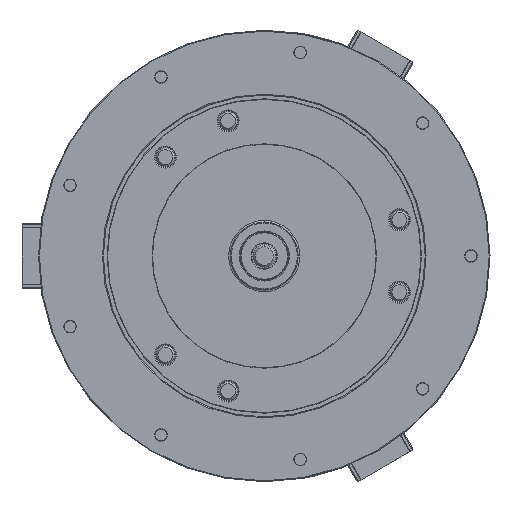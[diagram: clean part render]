
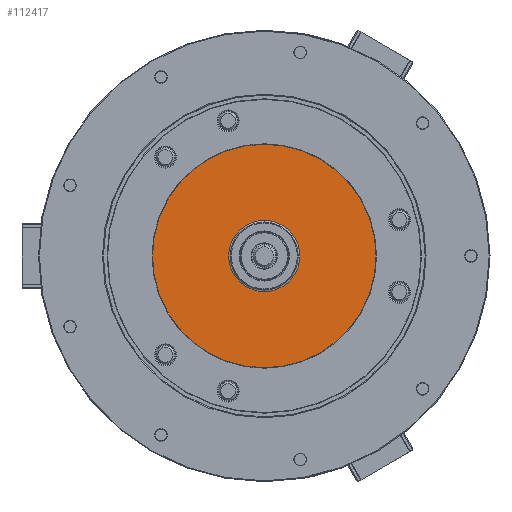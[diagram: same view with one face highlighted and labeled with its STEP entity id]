
A CAD part, left-side view. The second image highlights one B-rep face of the part: STEP entity #112417.
In plain terms, the highlighted planar face has unit normal (-1, 0, 0).
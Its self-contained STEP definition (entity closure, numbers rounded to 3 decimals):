
#926 = AXIS2_PLACEMENT_3D ( 'NONE', #12909, #72663, #108516 ) ;
#2519 = VERTEX_POINT ( 'NONE', #30172 ) ;
#4955 = DIRECTION ( 'NONE',  ( 1., 0., 0. ) ) ;
#5852 = EDGE_LOOP ( 'NONE', ( #37481, #82688 ) ) ;
#12347 = PLANE ( 'NONE',  #88419 ) ;
#12909 = CARTESIAN_POINT ( 'NONE',  ( -111.5, 0., 0. ) ) ;
#15152 = DIRECTION ( 'NONE',  ( 1., 0., 0. ) ) ;
#16077 = VERTEX_POINT ( 'NONE', #33793 ) ;
#17408 = DIRECTION ( 'NONE',  ( 0., 0., -1. ) ) ;
#27660 = DIRECTION ( 'NONE',  ( 0., 0., -1. ) ) ;
#28318 = FACE_OUTER_BOUND ( 'NONE', #5852, .T. ) ;
#28702 = CARTESIAN_POINT ( 'NONE',  ( -111.5, 0., 0. ) ) ;
#29434 = CARTESIAN_POINT ( 'NONE',  ( -111.5, -42., 0. ) ) ;
#30172 = CARTESIAN_POINT ( 'NONE',  ( -111.5, 0., 132. ) ) ;
#33793 = CARTESIAN_POINT ( 'NONE',  ( -111.5, 0., -132. ) ) ;
#37481 = ORIENTED_EDGE ( 'NONE', *, *, #60916, .F. ) ;
#39484 = EDGE_LOOP ( 'NONE', ( #100365, #56123 ) ) ;
#44267 = CIRCLE ( 'NONE', #107851, 132. ) ;
#44801 = VERTEX_POINT ( 'NONE', #96237 ) ;
#45848 = VERTEX_POINT ( 'NONE', #98497 ) ;
#56123 = ORIENTED_EDGE ( 'NONE', *, *, #110075, .T. ) ;
#60597 = CIRCLE ( 'NONE', #86000, 132. ) ;
#60916 = EDGE_CURVE ( 'NONE', #2519, #16077, #44267, .T. ) ;
#72652 = DIRECTION ( 'NONE',  ( 0., 0., -1. ) ) ;
#72663 = DIRECTION ( 'NONE',  ( 1., 0., 0. ) ) ;
#74180 = EDGE_CURVE ( 'NONE', #44801, #45848, #99038, .T. ) ;
#82688 = ORIENTED_EDGE ( 'NONE', *, *, #101270, .F. ) ;
#86000 = AXIS2_PLACEMENT_3D ( 'NONE', #96504, #86824, #27660 ) ;
#86824 = DIRECTION ( 'NONE',  ( 1., 0., 0. ) ) ;
#88419 = AXIS2_PLACEMENT_3D ( 'NONE', #29434, #4955, #72652 ) ;
#89544 = DIRECTION ( 'NONE',  ( 1., 0., 0. ) ) ;
#93125 = CARTESIAN_POINT ( 'NONE',  ( -111.5, 0., 0. ) ) ;
#95760 = AXIS2_PLACEMENT_3D ( 'NONE', #28702, #89544, #106634 ) ;
#96237 = CARTESIAN_POINT ( 'NONE',  ( -111.5, 0., -42. ) ) ;
#96504 = CARTESIAN_POINT ( 'NONE',  ( -111.5, 0., 0. ) ) ;
#97732 = FACE_BOUND ( 'NONE', #39484, .T. ) ;
#98497 = CARTESIAN_POINT ( 'NONE',  ( -111.5, 0., 42. ) ) ;
#99038 = CIRCLE ( 'NONE', #926, 42. ) ;
#100365 = ORIENTED_EDGE ( 'NONE', *, *, #74180, .T. ) ;
#101270 = EDGE_CURVE ( 'NONE', #16077, #2519, #60597, .T. ) ;
#104778 = CIRCLE ( 'NONE', #95760, 42. ) ;
#106634 = DIRECTION ( 'NONE',  ( 0., 0., -1. ) ) ;
#107851 = AXIS2_PLACEMENT_3D ( 'NONE', #93125, #15152, #17408 ) ;
#108516 = DIRECTION ( 'NONE',  ( 0., 0., -1. ) ) ;
#110075 = EDGE_CURVE ( 'NONE', #45848, #44801, #104778, .T. ) ;
#112417 = ADVANCED_FACE ( 'NONE', ( #28318, #97732 ), #12347, .F. ) ;
